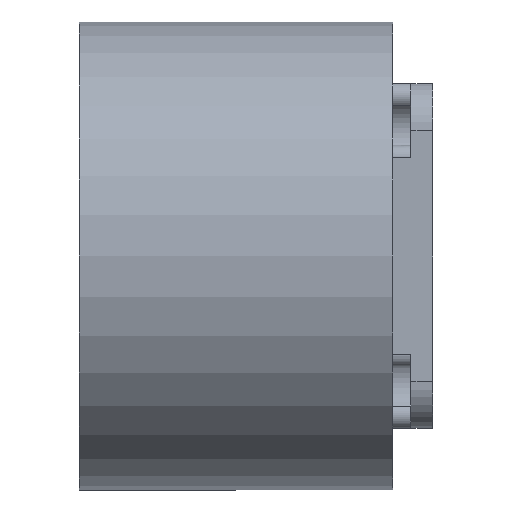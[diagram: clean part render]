
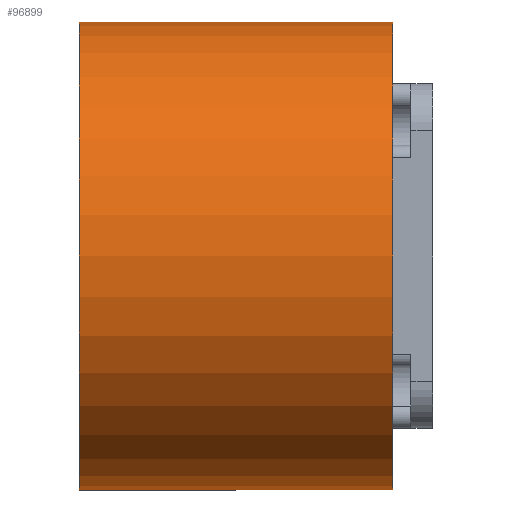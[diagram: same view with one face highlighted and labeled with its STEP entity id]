
A CAD part, left-side view. The second image highlights one B-rep face of the part: STEP entity #96899.
In plain terms, the highlighted cylindrical face has radius 74.644 mm (diameter 149.288 mm), a partial arc.
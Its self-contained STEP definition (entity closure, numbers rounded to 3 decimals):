
#385 = ORIENTED_EDGE ( 'NONE', *, *, #121883, .T. ) ;
#10916 = LINE ( 'NONE', #90637, #85381 ) ;
#16402 = CARTESIAN_POINT ( 'NONE',  ( 0., 90.242, 0. ) ) ;
#18766 = CARTESIAN_POINT ( 'NONE',  ( 0., 65.5, 0. ) ) ;
#18894 = DIRECTION ( 'NONE',  ( 0., 1., 0. ) ) ;
#26443 = DIRECTION ( 'NONE',  ( 0., 0., 1. ) ) ;
#27423 = DIRECTION ( 'NONE',  ( 0., 1., 0. ) ) ;
#29312 = DIRECTION ( 'NONE',  ( 0., 1., 0. ) ) ;
#33850 = AXIS2_PLACEMENT_3D ( 'NONE', #16402, #18894, #103842 ) ;
#39110 = FACE_OUTER_BOUND ( 'NONE', #54214, .T. ) ;
#40101 = LINE ( 'NONE', #108412, #96050 ) ;
#46154 = EDGE_CURVE ( 'NONE', #115876, #80353, #40101, .T. ) ;
#51717 = AXIS2_PLACEMENT_3D ( 'NONE', #76531, #27423, #115485 ) ;
#52523 = CARTESIAN_POINT ( 'NONE',  ( 0., -9.758, -74.644 ) ) ;
#54214 = EDGE_LOOP ( 'NONE', ( #68965, #385, #61892, #92379 ) ) ;
#57720 = DIRECTION ( 'NONE',  ( 0., 1., 0. ) ) ;
#61892 = ORIENTED_EDGE ( 'NONE', *, *, #46154, .T. ) ;
#66541 = EDGE_CURVE ( 'NONE', #110780, #80353, #88856, .T. ) ;
#68965 = ORIENTED_EDGE ( 'NONE', *, *, #116039, .F. ) ;
#76531 = CARTESIAN_POINT ( 'NONE',  ( 0., -9.758, 0. ) ) ;
#80353 = VERTEX_POINT ( 'NONE', #92136 ) ;
#85381 = VECTOR ( 'NONE', #109170, 1000. ) ;
#88856 = CIRCLE ( 'NONE', #33850, 74.644 ) ;
#90637 = CARTESIAN_POINT ( 'NONE',  ( 0., 65.5, -74.644 ) ) ;
#92136 = CARTESIAN_POINT ( 'NONE',  ( 0., 90.242, 74.644 ) ) ;
#92379 = ORIENTED_EDGE ( 'NONE', *, *, #66541, .F. ) ;
#93763 = AXIS2_PLACEMENT_3D ( 'NONE', #18766, #57720, #26443 ) ;
#96050 = VECTOR ( 'NONE', #29312, 1000. ) ;
#96899 = ADVANCED_FACE ( 'NONE', ( #39110 ), #114507, .T. ) ;
#99818 = CARTESIAN_POINT ( 'NONE',  ( 0., 90.242, -74.644 ) ) ;
#102457 = CARTESIAN_POINT ( 'NONE',  ( 0., -9.758, 74.644 ) ) ;
#103842 = DIRECTION ( 'NONE',  ( 0., 0., 1. ) ) ;
#106773 = CIRCLE ( 'NONE', #51717, 74.644 ) ;
#108088 = VERTEX_POINT ( 'NONE', #52523 ) ;
#108412 = CARTESIAN_POINT ( 'NONE',  ( 0., 65.5, 74.644 ) ) ;
#109170 = DIRECTION ( 'NONE',  ( 0., 1., 0. ) ) ;
#110780 = VERTEX_POINT ( 'NONE', #99818 ) ;
#114507 = CYLINDRICAL_SURFACE ( 'NONE', #93763, 74.644 ) ;
#115485 = DIRECTION ( 'NONE',  ( 0., 0., 1. ) ) ;
#115876 = VERTEX_POINT ( 'NONE', #102457 ) ;
#116039 = EDGE_CURVE ( 'NONE', #108088, #110780, #10916, .T. ) ;
#121883 = EDGE_CURVE ( 'NONE', #108088, #115876, #106773, .T. ) ;
